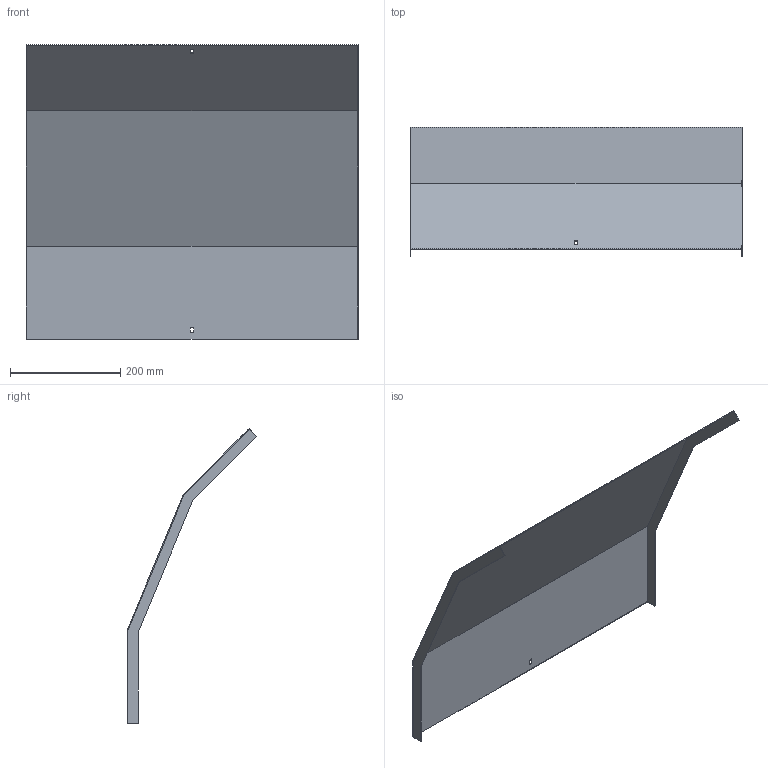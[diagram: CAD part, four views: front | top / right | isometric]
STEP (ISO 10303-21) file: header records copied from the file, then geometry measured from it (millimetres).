
FILE_DESCRIPTION (( 'STEP AP214' ), '1' );
FILE_NAME ('A2_34N3C600.step', '2025-02-21T10:34:26', ( '' ), ( '' ), 'SwSTEP 2.0', 'SolidWorks 2023', '' );
FILE_SCHEMA (( 'AUTOMOTIVE_DESIGN' ));
Length unit declared in the file: millimetre
Products named in the file (1): A2_34N3C600
Bounding box: 603 x 235.79 x 535.1 mm (x, y, z)
Volume: 579526.5 mm3; surface area: 776483.8 mm2
Topology: 1 solids, 1 shells, 26 faces, 72 edges, 48 vertices
Faces by surface type: plane 26
Entity records: 847 total; most frequent: CARTESIAN_POINT 147, ORIENTED_EDGE 144, DIRECTION 126, VECTOR 72, LINE 72, EDGE_CURVE 72, VERTEX_POINT 48, EDGE_LOOP 30
